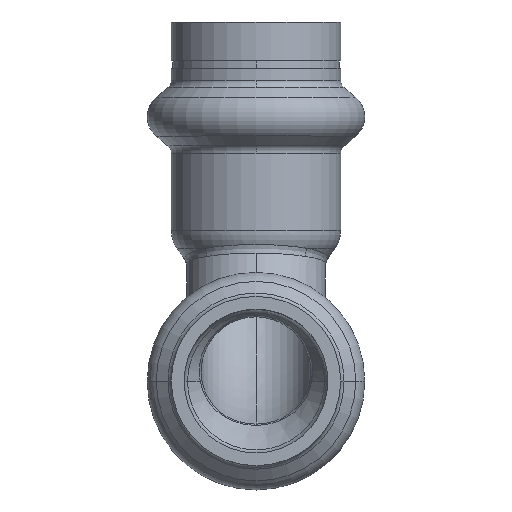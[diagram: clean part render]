
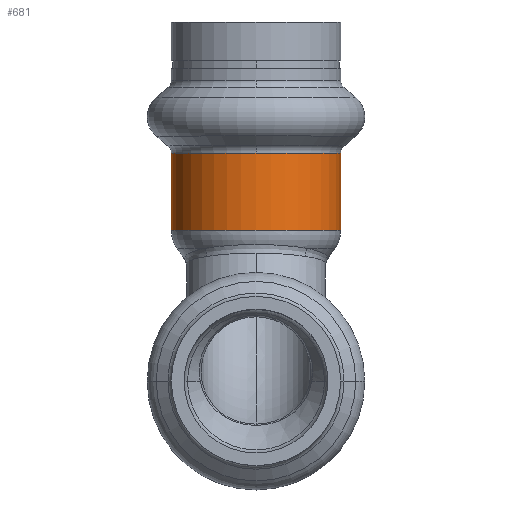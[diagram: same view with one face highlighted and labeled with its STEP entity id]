
A CAD part, top view. The second image highlights one B-rep face of the part: STEP entity #681.
In plain terms, the highlighted cylindrical face has radius 8.95 mm (diameter 17.9 mm), a partial arc.
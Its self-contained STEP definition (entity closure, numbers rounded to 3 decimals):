
#74 = VERTEX_POINT ( 'NONE', #2021 ) ;
#578 = AXIS2_PLACEMENT_3D ( 'NONE', #2434, #2428, #2420 ) ;
#615 = CIRCLE ( 'NONE', #3524, 8.95 ) ;
#681 = ADVANCED_FACE ( 'NONE', ( #919 ), #864, .T. ) ;
#864 = CYLINDRICAL_SURFACE ( 'NONE', #3069, 8.95 ) ;
#919 = FACE_OUTER_BOUND ( 'NONE', #1681, .T. ) ;
#932 = CARTESIAN_POINT ( 'NONE',  ( 0., 24.147, 0. ) ) ;
#938 = DIRECTION ( 'NONE',  ( 0., -1., 0. ) ) ;
#943 = DIRECTION ( 'NONE',  ( 0., 0., 1. ) ) ;
#969 = CARTESIAN_POINT ( 'NONE',  ( 8.95, 24.147, 0. ) ) ;
#1232 = ORIENTED_EDGE ( 'NONE', *, *, #2864, .T. ) ;
#1396 = ORIENTED_EDGE ( 'NONE', *, *, #3757, .T. ) ;
#1513 = VECTOR ( 'NONE', #1792, 1000. ) ;
#1616 = CARTESIAN_POINT ( 'NONE',  ( 8.95, 62.626, 0. ) ) ;
#1624 = DIRECTION ( 'NONE',  ( 0., 1., 0. ) ) ;
#1635 = LINE ( 'NONE', #1616, #2188 ) ;
#1681 = EDGE_LOOP ( 'NONE', ( #2720, #2572, #2306, #1396, #1232 ) ) ;
#1761 = CARTESIAN_POINT ( 'NONE',  ( -8.95, 62.626, 0. ) ) ;
#1768 = CIRCLE ( 'NONE', #2474, 8.95 ) ;
#1792 = DIRECTION ( 'NONE',  ( 0., 1., 0. ) ) ;
#1818 = CIRCLE ( 'NONE', #578, 8.95 ) ;
#2014 = VERTEX_POINT ( 'NONE', #4338 ) ;
#2021 = CARTESIAN_POINT ( 'NONE',  ( -8.95, 24.147, 0. ) ) ;
#2138 = VERTEX_POINT ( 'NONE', #3357 ) ;
#2188 = VECTOR ( 'NONE', #1624, 1000. ) ;
#2277 = VERTEX_POINT ( 'NONE', #969 ) ;
#2306 = ORIENTED_EDGE ( 'NONE', *, *, #2921, .T. ) ;
#2402 = LINE ( 'NONE', #1761, #1513 ) ;
#2420 = DIRECTION ( 'NONE',  ( 0., 0., 1. ) ) ;
#2428 = DIRECTION ( 'NONE',  ( 0., -1., 0. ) ) ;
#2434 = CARTESIAN_POINT ( 'NONE',  ( 0., 24.147, 0. ) ) ;
#2474 = AXIS2_PLACEMENT_3D ( 'NONE', #2779, #2774, #2762 ) ;
#2572 = ORIENTED_EDGE ( 'NONE', *, *, #3707, .F. ) ;
#2706 = EDGE_CURVE ( 'NONE', #2138, #74, #2402, .T. ) ;
#2720 = ORIENTED_EDGE ( 'NONE', *, *, #2706, .F. ) ;
#2762 = DIRECTION ( 'NONE',  ( 1., 0., 0. ) ) ;
#2774 = DIRECTION ( 'NONE',  ( 0., -1., 0. ) ) ;
#2779 = CARTESIAN_POINT ( 'NONE',  ( 0., 16., 0. ) ) ;
#2864 = EDGE_CURVE ( 'NONE', #3949, #74, #615, .T. ) ;
#2921 = EDGE_CURVE ( 'NONE', #2014, #2277, #1635, .T. ) ;
#3069 = AXIS2_PLACEMENT_3D ( 'NONE', #3870, #3685, #3761 ) ;
#3357 = CARTESIAN_POINT ( 'NONE',  ( -8.95, 16., 0. ) ) ;
#3418 = CARTESIAN_POINT ( 'NONE',  ( 0., 24.147, 8.95 ) ) ;
#3524 = AXIS2_PLACEMENT_3D ( 'NONE', #932, #938, #943 ) ;
#3685 = DIRECTION ( 'NONE',  ( 0., 1., 0. ) ) ;
#3707 = EDGE_CURVE ( 'NONE', #2014, #2138, #1768, .T. ) ;
#3757 = EDGE_CURVE ( 'NONE', #2277, #3949, #1818, .T. ) ;
#3761 = DIRECTION ( 'NONE',  ( 1., 0., 0. ) ) ;
#3870 = CARTESIAN_POINT ( 'NONE',  ( 0., 62.626, 0. ) ) ;
#3949 = VERTEX_POINT ( 'NONE', #3418 ) ;
#4338 = CARTESIAN_POINT ( 'NONE',  ( 8.95, 16., 0. ) ) ;
